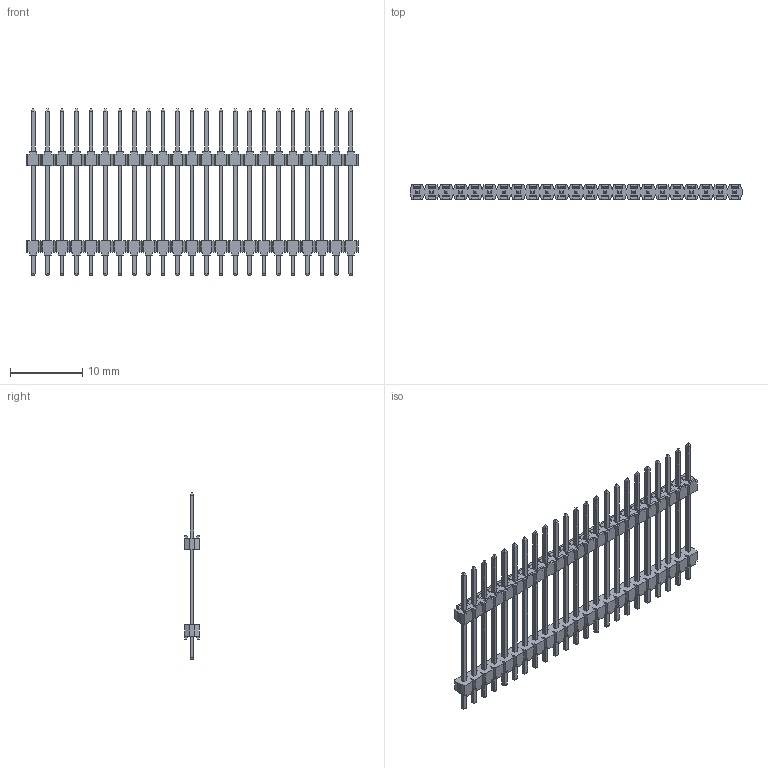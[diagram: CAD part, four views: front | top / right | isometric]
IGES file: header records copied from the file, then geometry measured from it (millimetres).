
Global section: file name: N:\GOLF_VI_2mm_UGII\9514XX_906XX06_AR\951423-9062506-AR.igs; native system: NX V3.0; preprocessor: UGS NX IGES V4.0; date: 20070314.143248; units: millimetre
Bounding box: 46 x 2 x 23.1 mm (x, y, z)
Surface area: 1756.1 mm2 (no closed solid volume)
Topology: 0 solids, 0 shells, 1158 faces, 6281 edges, 6281 vertices
Faces by surface type: bspline 1158
